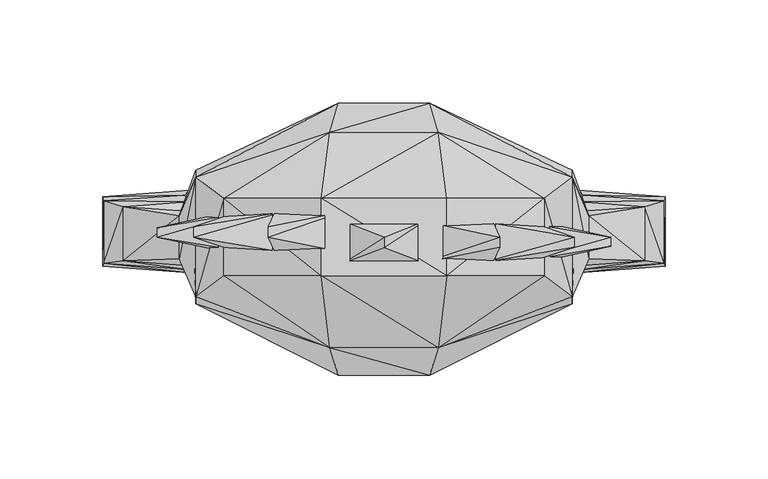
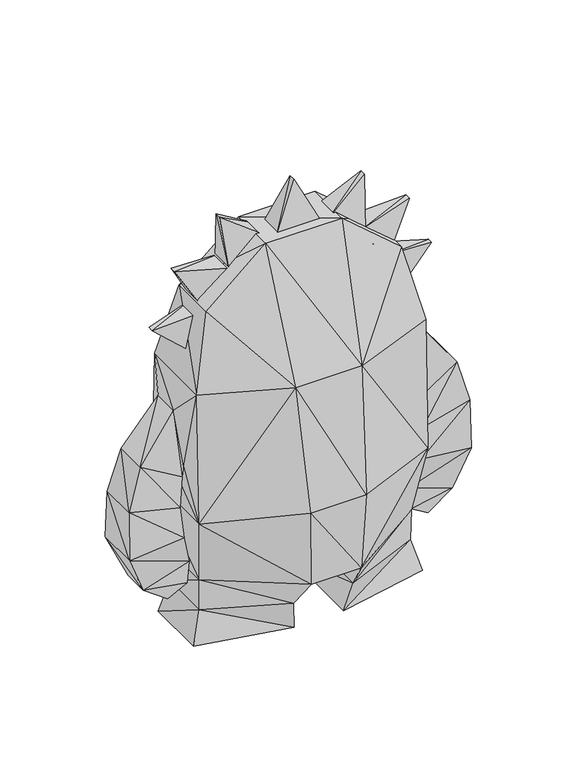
"""IFC4 building model written with IfcOpenShell, lengths in millimetres: geographic element geometry, Enscape AssetDefinition - Plushy 03 : Enscape AssetDefinition - Plushy 03."""

import ifcopenshell
import ifcopenshell.guid

model = None  # the IFC model being written
_history = None  # IfcOwnerHistory: only IFC2X3 demands one
_inside = {}  # id of a spatial element -> (the spatial element, [elements in it])
_under = {}  # id of a project, library or spatial element -> (it, [spatial elements below it])
_declared = {}  # id of a project -> (the project, [libraries it declares])
_typed = {}  # id of a type object -> (the type object, [elements of that type])
_made_of = {}  # id of a material, layer set ... -> (it, [elements and type objects made of it])


def new_model(schema):
    """Start an empty IFC model of exactly this schema.

    Asked for "IFC4X3", IfcOpenShell would pick the latest addendum, in which some entities
    have other attributes; the version numbers below select the first issue.
    IFC2X3 requires an IfcOwnerHistory on every rooted entity: one is made here for all.
    """
    global model, _history
    if schema == "IFC4X3":
        model = ifcopenshell.file(schema_version=(4, 3, 0, 0))
    else:
        model = ifcopenshell.file(schema=schema)
    _inside.clear()
    _under.clear()
    _declared.clear()
    _typed.clear()
    _made_of.clear()
    _history = None
    if model.schema == "IFC2X3":
        org = make("IfcOrganization", Name="unknown")
        user = make(
            "IfcPersonAndOrganization",
            ThePerson=make("IfcPerson", FamilyName="unknown"),
            TheOrganization=org,
        )
        app = make(
            "IfcApplication",
            ApplicationDeveloper=org,
            Version="unknown",
            ApplicationFullName="unknown",
            ApplicationIdentifier="unknown",
        )
        _history = make(
            "IfcOwnerHistory",
            OwningUser=user,
            OwningApplication=app,
            ChangeAction="ADDED",
            CreationDate=0,
        )
    return model


def make(cls, **values):
    """One entity of the class cls with the attributes given. An attribute that is None is left unset."""
    return model.create_entity(
        cls, **{name: value for name, value in values.items() if value is not None}
    )


def rooted(cls, **values):
    """An entity with a GlobalId (a new one), such as an element, a storey or a relation."""
    return make(cls, GlobalId=ifcopenshell.guid.new(), OwnerHistory=_history, **values)


def si_unit(unit_type, name, prefix=None):
    """IfcSIUnit, for example si_unit("LENGTHUNIT", "METRE", prefix="MILLI")."""
    return make("IfcSIUnit", UnitType=unit_type, Prefix=prefix, Name=name)


def assignment(units):
    """IfcUnitAssignment: the units of a project."""
    return None if units is None else make("IfcUnitAssignment", Units=units)


def point(xyz):
    """IfcCartesianPoint."""
    return None if xyz is None else make("IfcCartesianPoint", Coordinates=xyz)


def direction(xyz):
    """IfcDirection."""
    return None if xyz is None else make("IfcDirection", DirectionRatios=xyz)


def frame(location, z_axis=None, x_axis=None):
    """IfcAxis2Placement3D, a coordinate frame: its origin and axes. An axis left out is left unset."""
    return make(
        "IfcAxis2Placement3D",
        Location=point(location),
        Axis=direction(z_axis),
        RefDirection=direction(x_axis),
    )


def origin():
    """The frame at (0, 0, 0) with its axes left unset."""
    return frame((0.0, 0.0, 0.0))


def place(relative_to, where):
    """IfcLocalPlacement: puts the frame where relative to a parent placement (None: the world)."""
    return make(
        "IfcLocalPlacement", PlacementRelTo=relative_to, RelativePlacement=where
    )


def context(
    kind, dimensions, precision=None, world=None, true_north=None, identifier=None
):
    """IfcGeometricRepresentationContext, for example the 3D "Model" context."""
    return make(
        "IfcGeometricRepresentationContext",
        ContextIdentifier=identifier,
        ContextType=kind,
        CoordinateSpaceDimension=dimensions,
        Precision=precision,
        WorldCoordinateSystem=world,
        TrueNorth=true_north,
    )


def project(units=None, contexts=None):
    """IfcProject with its units and contexts."""
    return rooted(
        "IfcProject",
        Name="project",
        RepresentationContexts=contexts,
        UnitsInContext=assignment(units),
    )


def spatial(cls, under=None, at=None, **own):
    """A site, building, storey or space (cls), placed at a placement, below another one or the project."""
    s = rooted(cls, ObjectPlacement=at, **own)
    if under is not None:
        _under.setdefault(under.id(), (under, []))[1].append(s)
    return s


def faces_of(points, faces, orient=None, outer=None):
    """IfcFace entities. A face is a list of loops; a loop is a list of indices into points, from 0.

    orient and outer hold one flag for each loop. By default every Orientation is true, the
    first loop of a face is its IfcFaceOuterBound and the others are IfcFaceBound.
    """
    made = []
    for i, loops in enumerate(faces):
        bounds = []
        for j, loop in enumerate(loops):
            is_outer = j == 0 if outer is None else outer[i][j]
            bounds.append(
                make(
                    "IfcFaceOuterBound" if is_outer else "IfcFaceBound",
                    Bound=make("IfcPolyLoop", Polygon=[points[k] for k in loop]),
                    Orientation=True if orient is None else orient[i][j],
                )
            )
        made.append(make("IfcFace", Bounds=bounds))
    return made


def faceted_brep(points, faces, orient=None, outer=None, voids=None):
    """IfcFacetedBrep: a solid bounded by flat faces; with voids (closed shells), ...WithVoids."""
    shared = [point(p) for p in points]
    hull = make("IfcClosedShell", CfsFaces=faces_of(shared, faces, orient, outer))
    if voids is None:
        return make("IfcFacetedBrep", Outer=hull)
    return make(
        "IfcFacetedBrepWithVoids",
        Outer=hull,
        Voids=[
            make(cls, CfsFaces=faces_of(shared, fs, o, b)) for cls, fs, o, b in voids
        ],
    )


def shape(context_of_items, identifier, shape_type, items):
    """IfcShapeRepresentation: the items that make up one representation, for example the "Body"."""
    return make(
        "IfcShapeRepresentation",
        ContextOfItems=context_of_items,
        RepresentationIdentifier=identifier,
        RepresentationType=shape_type,
        Items=items,
    )


def source(mapping_origin, context_of_items, identifier, shape_type, items):
    """IfcRepresentationMap: a shape defined once, which mapped items show again and again."""
    return make(
        "IfcRepresentationMap",
        MappingOrigin=mapping_origin,
        MappedRepresentation=shape(context_of_items, identifier, shape_type, items),
    )


def transform(
    local_origin,
    x_axis=None,
    y_axis=None,
    z_axis=None,
    scale=None,
    scale2=None,
    scale3=None,
    uniform=True,
):
    """IfcCartesianTransformationOperator3D, or its non-uniform kind. x_axis, y_axis, z_axis: its Axis1, 2, 3."""
    if uniform:
        return make(
            "IfcCartesianTransformationOperator3D",
            Axis1=direction(x_axis),
            Axis2=direction(y_axis),
            LocalOrigin=point(local_origin),
            Scale=scale,
            Axis3=direction(z_axis),
        )
    return make(
        "IfcCartesianTransformationOperator3DnonUniform",
        Axis1=direction(x_axis),
        Axis2=direction(y_axis),
        LocalOrigin=point(local_origin),
        Scale=scale,
        Axis3=direction(z_axis),
        Scale2=scale2,
        Scale3=scale3,
    )


def mapped(mapping_source, mapping_target):
    """IfcMappedItem: shows the shape of a source again, moved by a transform."""
    return make(
        "IfcMappedItem", MappingSource=mapping_source, MappingTarget=mapping_target
    )


def made_of(thing, what):
    """Note that an element or type object is made of a material, layer set ...; save() writes the relation."""
    if what is not None:
        _made_of.setdefault(what.id(), (what, []))[1].append(thing)
    return thing


def element(
    cls,
    number,
    at=None,
    inside=None,
    cuts=None,
    type_object=None,
    material=None,
    context=None,
    identifier="Body",
    shape_type=None,
    held_by="IfcProductDefinitionShape",
    body=None,
    shapes=None,
    **own,
):
    """One element of the class cls, such as IfcWall. Its Tag is "e" and its number.

    at: its placement. inside: the storey or other place that contains it. cuts: it is an
    opening in that element (IfcRelVoidsElement). A single representation is given by context,
    identifier, shape_type and body (its items); several are given by shapes. held_by: the class
    of the entity that holds the representations. save() writes the other relations.
    """
    e = rooted(cls, Tag="e%d" % number, ObjectPlacement=at, **own)
    if body is not None:
        shapes = [shape(context, identifier, shape_type, body)]
    if shapes is not None:
        e.Representation = make(held_by, Representations=shapes)
    if inside is not None:
        _inside.setdefault(inside.id(), (inside, []))[1].append(e)
    if cuts is not None:
        rooted(
            "IfcRelVoidsElement", RelatingBuildingElement=cuts, RelatedOpeningElement=e
        )
    if type_object is not None:
        _typed.setdefault(type_object.id(), (type_object, []))[1].append(e)
    return made_of(e, material)


def aggregate(whole, parts):
    """IfcRelAggregates: a whole, such as a stair, and the parts it consists of."""
    return rooted("IfcRelAggregates", RelatingObject=whole, RelatedObjects=parts)


def save(model, path):
    """Write the relations noted so far, then the file.

    IfcRelAggregates (storeys below a building ...), IfcRelContainedInSpatialStructure (elements
    in a storey), IfcRelDefinesByType, IfcRelAssociatesMaterial and IfcRelDeclares: one each for
    every whole, place, type object, material and project.
    """
    for whole, parts in _under.values():
        aggregate(whole, parts)
    for where, things in _inside.values():
        rooted(
            "IfcRelContainedInSpatialStructure",
            RelatedElements=things,
            RelatingStructure=where,
        )
    for kind, things in _typed.values():
        rooted("IfcRelDefinesByType", RelatedObjects=things, RelatingType=kind)
    for what, things in _made_of.values():
        rooted("IfcRelAssociatesMaterial", RelatedObjects=things, RelatingMaterial=what)
    for by, libraries in _declared.values():
        rooted("IfcRelDeclares", RelatingContext=by, RelatedDefinitions=libraries)
    model.write(path)


def geographic_element_39f53625(model_context):
    return source(origin(), model_context, "Body", "Brep", [
        faceted_brep([(91.4164484, 24.3301447, 0.0), (19.9460126, -39.3976606, 0.0), (19.9460126, 39.3976606, 0.0), (91.4164484, -24.3301447, 0.0), (84.2347294, -19.9668221, 25.6729685), (23.7497631, -45.8820909, 25.6725606), (84.2347369, 19.9668221, 25.6729685), (23.7497631, 45.8820872, 25.6725531), (84.6604928, -20.6261538, 51.3459705), (84.6604928, 20.6261538, 51.3459705), (19.9460126, -63.9081523, 51.3450466), (19.9460126, 63.9081597, 51.3450354), (91.4164484, 32.3835015, 107.7160016), (91.4164484, -32.3834978, 107.7160016), (-22.2274568, -67.1784207, 113.7674078), (22.2274568, -67.1784207, 113.7674078), (-19.9460126, -63.9081523, 51.3450466), (-26.2928717, -53.6500476, 212.9652798), (26.2928717, -53.6500476, 212.9652798), (-91.4164484, -32.3834978, 107.7160016), (-84.6604928, -20.6261538, 51.3459705), (-19.9460126, 63.9081597, 51.3450354), (-23.7497631, -45.8820909, 25.6725494), (-22.2243499, 65.1038662, 113.6915386), (-91.4164484, 32.3835015, 107.7160016), (-84.6604928, 20.6261538, 51.3459705), (-23.7497631, 45.8820872, 25.6725457), (-84.234722, -19.9668203, 25.6729629), (-19.9460126, -39.3976606, 0.0), (-19.9460126, 39.3976606, 0.0), (-84.2347294, 19.966824, 25.6729629), (-91.4164484, 24.3301447, 0.0), (-91.4164484, -24.3301447, 0.0), (-91.4164484, -29.0158093, 214.596197), (-92.210412, 12.3425368, 144.5124298), (-92.210412, -12.3425322, 144.5124298), (-30.4721519, -18.7497959, 314.9414361), (-77.8709278, -18.7955461, 274.1337121), (30.4721519, -18.7497959, 314.9414361), (-30.4721463, 18.7497921, 314.9414361), (-77.8709278, 18.7955517, 274.1337121), (77.8709278, -18.7955461, 274.1337121), (91.4164484, -29.0158093, 214.596197), (77.8709278, 18.7955517, 274.1337121), (30.4721463, 18.7497921, 314.9414361), (91.4164484, 29.015813, 214.596197), (99.375315, -10.4103591, 193.5218126), (92.210412, -12.3425322, 144.5124298), (92.210412, 12.3425368, 144.5124298), (94.4452882, 17.2954816, 137.419194), (94.4452882, -13.9028681, 137.419194), (99.375315, 10.4103638, 193.5218126), (126.5945584, -11.4608817, 155.581221), (97.0242992, 20.422373, 113.2766381), (97.0242992, -15.5243194, 113.2766381), (126.5945584, 14.8534961, 155.581221), (136.1271739, 17.6087227, 120.997645), (94.5415497, 22.7521025, 88.0832225), (136.4571005, 19.6273513, 81.3866183), (136.1271739, -12.7106663, 120.997645), (94.5415497, -17.1691664, 88.0832225), (88.0856141, 12.3425387, 63.3854046), (123.43923, 10.4103694, 49.8990342), (136.4571005, -14.0444068, 81.3866183), (123.43923, -10.4103545, 49.8990342), (103.7675142, 10.4103703, 35.86464), (103.7675142, -10.4103535, 35.86464), (88.0856141, -12.3425294, 63.3854046), (89.4986689, 12.3425387, 45.3504659), (89.4986689, -12.3425294, 45.3504659), (22.2243499, 65.1038662, 113.6915386), (26.3084229, 50.8361384, 213.3447379), (-26.3084229, 50.8361384, 213.3447379), (-91.4164484, 29.015813, 214.596197), (-99.375315, 10.4103638, 193.5218126), (-99.375315, -10.4103591, 193.5218126), (-126.5945584, -11.4608817, 155.581221), (-94.4452882, -13.9028681, 137.419194), (-126.5945584, 14.8534961, 155.581221), (-136.1271739, -12.7106663, 120.997645), (-97.0242992, -15.5243194, 113.2766381), (-94.4452882, 17.2954816, 137.419194), (-97.0242992, 20.422373, 113.2766381), (-136.1271739, 17.6087227, 120.997645), (-136.4571005, -14.0444068, 81.3866183), (-94.5415497, -17.1691664, 88.0832225), (-94.5415497, 22.7521025, 88.0832225), (-136.4571005, 19.6273513, 81.3866183), (-123.43923, -10.4103545, 49.8990342), (-88.0856141, -12.3425294, 63.3854046), (-88.0856141, 12.3425387, 63.3854046), (-123.43923, 10.4103694, 49.8990342), (-103.7675142, -10.4103535, 35.86464), (-89.4986689, -12.3425294, 45.3504659), (-89.4986689, 12.3425387, 45.3504659), (-103.7675142, 10.4103703, 35.86464)], [[[0, 1, 2]], [[1, 0, 3]], [[4, 1, 3]], [[1, 4, 5]], [[5, 2, 1]], [[6, 2, 7]], [[2, 6, 0]], [[2, 5, 7]], [[4, 0, 6]], [[0, 4, 3]], [[8, 5, 4]], [[4, 9, 8]], [[9, 4, 6]], [[10, 7, 5]], [[5, 8, 10]], [[7, 10, 11]], [[9, 7, 11]], [[7, 9, 6]], [[12, 8, 9]], [[11, 12, 9]], [[13, 10, 8]], [[8, 12, 13]], [[14, 10, 15]], [[10, 14, 16]], [[10, 13, 15]], [[16, 11, 10]], [[17, 15, 18]], [[15, 17, 14]], [[13, 18, 15]], [[19, 16, 14]], [[17, 19, 14]], [[16, 19, 20]], [[11, 16, 21]], [[20, 22, 16]], [[22, 21, 16]], [[23, 11, 21]], [[24, 21, 25]], [[21, 24, 23]], [[26, 25, 21]], [[21, 22, 26]], [[27, 28, 22]], [[28, 26, 22]], [[22, 20, 27]], [[29, 30, 26]], [[26, 28, 29]], [[25, 26, 30]], [[20, 24, 25]], [[30, 20, 25]], [[31, 27, 30]], [[30, 29, 31]], [[20, 30, 27]], [[28, 27, 32]], [[27, 31, 32]], [[31, 28, 32]], [[28, 31, 29]], [[24, 20, 19]], [[19, 17, 33]], [[34, 19, 35]], [[19, 34, 24]], [[33, 35, 19]], [[18, 36, 17]], [[17, 37, 33]], [[37, 17, 36]], [[38, 39, 36]], [[40, 36, 39]], [[36, 40, 37]], [[36, 18, 38]], [[18, 41, 38]], [[41, 18, 42]], [[18, 13, 42]], [[43, 38, 41]], [[38, 43, 44]], [[39, 38, 44]], [[42, 43, 41]], [[43, 42, 45]], [[46, 45, 42]], [[47, 42, 13]], [[42, 47, 46]], [[48, 13, 12]], [[13, 48, 47]], [[49, 47, 48]], [[47, 49, 50]], [[50, 46, 47]], [[45, 46, 51]], [[52, 51, 46]], [[46, 50, 52]], [[53, 50, 49]], [[50, 53, 54]], [[54, 52, 50]], [[48, 55, 49]], [[56, 49, 55]], [[49, 56, 53]], [[57, 54, 53]], [[58, 53, 56]], [[53, 58, 57]], [[52, 54, 59]], [[54, 57, 60]], [[60, 59, 54]], [[61, 60, 57]], [[62, 57, 58]], [[57, 62, 61]], [[56, 63, 58]], [[64, 58, 63]], [[58, 64, 62]], [[65, 61, 62]], [[66, 62, 64]], [[62, 66, 65]], [[60, 61, 67]], [[68, 67, 61]], [[61, 65, 68]], [[69, 65, 66]], [[65, 69, 68]], [[64, 69, 66]], [[63, 67, 64]], [[69, 64, 67]], [[67, 63, 60]], [[67, 68, 69]], [[59, 60, 63]], [[63, 56, 59]], [[55, 59, 56]], [[55, 48, 51]], [[51, 52, 55]], [[59, 55, 52]], [[12, 51, 48]], [[51, 12, 45]], [[12, 11, 70]], [[70, 45, 12]], [[71, 43, 45]], [[45, 70, 71]], [[11, 23, 70]], [[72, 70, 23]], [[70, 72, 71]], [[43, 71, 44]], [[39, 71, 72]], [[71, 39, 44]], [[40, 72, 73]], [[72, 40, 39]], [[23, 73, 72]], [[73, 23, 24]], [[33, 40, 73]], [[24, 74, 73]], [[75, 73, 74]], [[73, 75, 33]], [[40, 33, 37]], [[35, 33, 75]], [[74, 76, 75]], [[77, 75, 76]], [[75, 77, 35]], [[74, 24, 34]], [[34, 78, 74]], [[76, 74, 78]], [[78, 79, 76]], [[80, 76, 79]], [[76, 80, 77]], [[81, 35, 77]], [[82, 77, 80]], [[77, 82, 81]], [[35, 81, 34]], [[78, 34, 81]], [[81, 83, 78]], [[79, 78, 83]], [[83, 84, 79]], [[85, 79, 84]], [[79, 85, 80]], [[86, 80, 85]], [[80, 86, 82]], [[83, 81, 82]], [[87, 82, 86]], [[82, 87, 83]], [[84, 83, 87]], [[87, 88, 84]], [[89, 84, 88]], [[84, 89, 85]], [[90, 85, 89]], [[85, 90, 86]], [[91, 86, 90]], [[86, 91, 87]], [[88, 87, 91]], [[91, 92, 88]], [[93, 88, 92]], [[88, 93, 89]], [[94, 89, 93]], [[89, 94, 90]], [[95, 90, 94]], [[90, 95, 91]], [[92, 91, 95]], [[95, 93, 92]], [[93, 95, 94]]]),
        faceted_brep([(110.156171, -4.4985199, 257.9702437), (70.3445673, -11.2475287, 265.2670443), (79.3267488, -11.2475241, 231.7451686), (70.3445673, 6.7490111, 265.2670443), (110.156171, -6.7e-06, 257.9702437), (79.3267414, 6.7490167, 231.7451686)], [[[0, 1, 2]], [[3, 2, 1]], [[1, 4, 3]], [[4, 1, 0]], [[2, 3, 5]], [[5, 0, 2]], [[0, 5, 4]], [[3, 4, 5]]]),
        faceted_brep([(92.3514143, -4.9337586, 301.537931), (48.5841446, -12.3357363, 294.1243351), (70.4156458, -12.3357307, 262.9457414), (48.5841408, 7.4019702, 294.1243351), (92.3514143, -1.38e-05, 301.537931), (70.4156458, 7.4019749, 262.9457414)], [[[0, 1, 2]], [[3, 2, 1]], [[1, 4, 3]], [[4, 1, 0]], [[2, 3, 5]], [[5, 0, 2]], [[0, 5, 4]], [[3, 4, 5]]]),
        faceted_brep([(56.3190281, -4.9337531, 334.6164525), (19.7855234, -12.3357382, 309.4006479), (52.7482219, -12.3357307, 290.3696001), (19.7855234, 7.4019665, 309.4006479), (56.3190281, -8.2e-06, 334.6164525), (52.7482182, 7.4019744, 290.3696001)], [[[0, 1, 2]], [[3, 2, 1]], [[1, 4, 3]], [[4, 1, 0]], [[2, 3, 5]], [[5, 0, 2]], [[0, 5, 4]], [[3, 4, 5]]]),
        faceted_brep([(0.0, -5.1246979, 349.999994), (-19.7675247, -12.8131341, 308.3436489), (19.7675247, -12.8131285, 308.3436489), (-19.7675247, 7.6884227, 308.3436489), (0.0, -1.73e-05, 349.999994), (19.7675247, 7.6884273, 308.3436489)], [[[0, 1, 2]], [[3, 2, 1]], [[1, 4, 3]], [[4, 1, 0]], [[2, 3, 5]], [[5, 0, 2]], [[0, 5, 4]], [[3, 4, 5]]]),
        faceted_brep([(-56.3190281, 4.9337302, 334.6164525), (-19.7855234, 12.335714, 309.4006479), (-52.7482219, 12.3357084, 290.3696001), (-19.7855234, -7.4019926, 309.4006479), (-56.3190281, -1.44e-05, 334.6164525), (-52.7482182, -7.4019977, 290.3696001)], [[[0, 1, 2]], [[3, 2, 1]], [[1, 4, 3]], [[4, 1, 0]], [[2, 3, 5]], [[5, 0, 2]], [[0, 5, 4]], [[3, 4, 5]]]),
        faceted_brep([(-92.3514143, 4.9337414, 301.537931), (-48.5841408, 12.3357149, 294.1243351), (-70.4156458, 12.3357112, 262.9457414), (-48.5841446, -7.4019916, 294.1243351), (-92.3514143, -3.3e-06, 301.537931), (-70.4156458, -7.401994, 262.9457414)], [[[0, 1, 2]], [[3, 2, 1]], [[1, 4, 3]], [[4, 1, 0]], [[2, 3, 5]], [[5, 0, 2]], [[0, 5, 4]], [[3, 4, 5]]]),
        faceted_brep([(-110.156171, 4.4985078, 257.9702437), (-70.3445673, 11.2475129, 265.2670443), (-79.3267414, 11.2475092, 231.7451686), (-70.3445673, -6.7490269, 265.2670443), (-110.156171, -5.8e-06, 257.9702437), (-79.3267488, -6.7490316, 231.7451686)], [[[0, 1, 2]], [[3, 2, 1]], [[1, 4, 3]], [[4, 1, 0]], [[2, 3, 5]], [[5, 0, 2]], [[0, 5, 4]], [[3, 4, 5]]]),
    ])


if __name__ == "__main__":
    model = new_model("IFC4")
    model_context = context("Model", 3, world=origin())
    ifc_project = project(units=[si_unit("LENGTHUNIT", "METRE", prefix="MILLI")], contexts=[model_context])
    site = spatial("IfcSite", under=ifc_project)
    building = spatial("IfcBuilding", under=site)
    placement = place(None, origin())
    geographic_element_shape = geographic_element_39f53625(model_context)
    element("IfcGeographicElement", 1, ObjectType="Enscape AssetDefinition - Plushy 03 : Enscape AssetDefinition - Plushy 03", at=placement, inside=building, context=model_context, shape_type="MappedRepresentation", body=[
        mapped(geographic_element_shape, transform((0.0, 0.0, 0.0), x_axis=(1.0, 0.0, 0.0), y_axis=(0.0, 1.0, 0.0), z_axis=(0.0, 0.0, 1.0))),
    ])
    save(model, "model.ifc")
